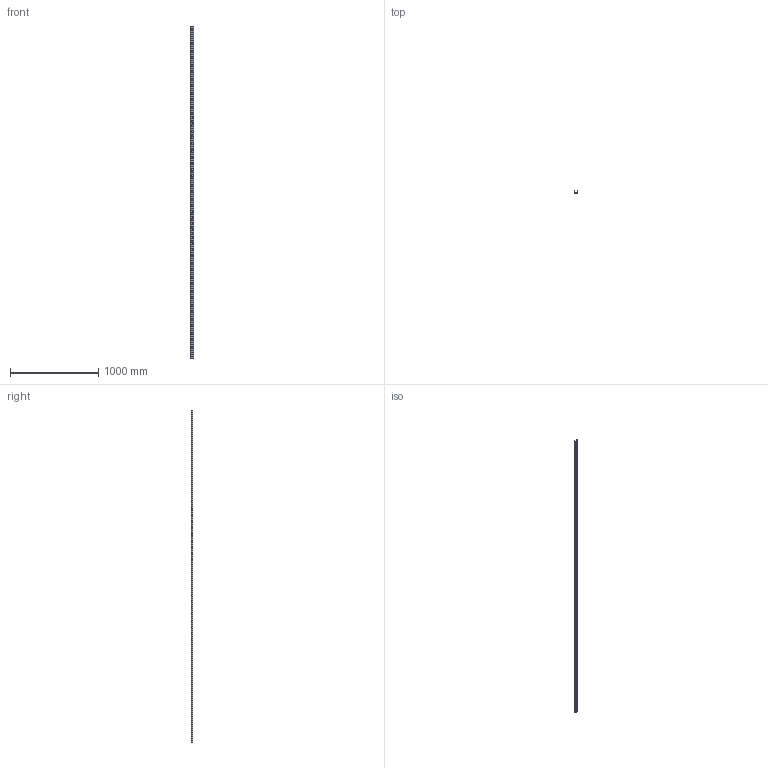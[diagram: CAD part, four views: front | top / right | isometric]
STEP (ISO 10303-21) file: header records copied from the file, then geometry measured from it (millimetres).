
FILE_DESCRIPTION(('STEP AP214'),'1');
FILE_NAME('rail_tex40-3760.stp','2019-03-08T08:34:25',('TraceParts'),('TraceParts S.A.'),'Spatial InterOp 3D',' ',' ');
FILE_SCHEMA(('automotive_design'));
Length unit declared in the file: millimetre
Products named in the file (1): rail_tex40-3760
Bounding box: 39.53 x 21 x 3760 mm (x, y, z)
Volume: 735147.8 mm3; surface area: 517664.2 mm2
Topology: 1 solids, 1 shells, 804 faces, 2082 edges, 1388 vertices
Faces by surface type: plane 566, bspline 132, cylinder 106
Entity records: 51143 total; most frequent: CARTESIAN_POINT 25479, ORIENTED_EDGE 4164, DIRECTION 3376, EDGE_CURVE 2082, LINE 1606, VECTOR 1606, VERTEX_POINT 1388, EDGE_LOOP 1006
